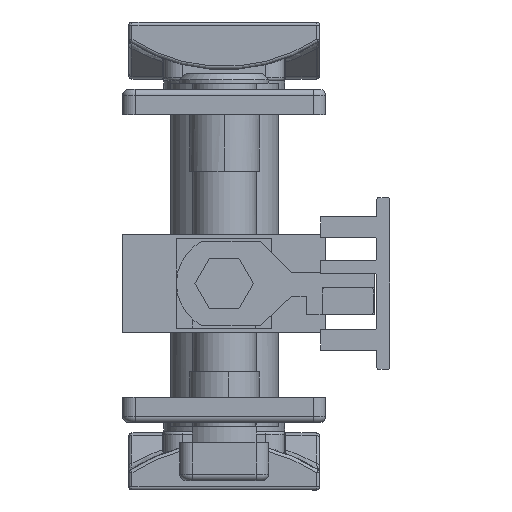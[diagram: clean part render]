
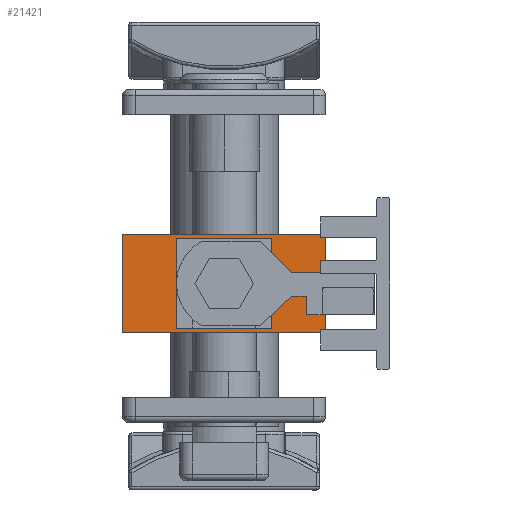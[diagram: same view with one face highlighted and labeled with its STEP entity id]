
A CAD part, front view. The second image highlights one B-rep face of the part: STEP entity #21421.
In plain terms, the highlighted planar face has unit normal (0, -1, 0).
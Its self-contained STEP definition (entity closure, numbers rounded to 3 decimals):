
#980 = CARTESIAN_POINT ( 'NONE',  ( 7., -199.25, 6.25 ) ) ;
#991 = CARTESIAN_POINT ( 'NONE',  ( 16., -199.25, 7.75 ) ) ;
#2183 = LINE ( 'NONE', #33292, #22759 ) ;
#3111 = ORIENTED_EDGE ( 'NONE', *, *, #17955, .F. ) ;
#4409 = LINE ( 'NONE', #22152, #5649 ) ;
#4440 = DIRECTION ( 'NONE',  ( 0., 0., -1. ) ) ;
#4994 = CARTESIAN_POINT ( 'NONE',  ( -16., -199.25, -7.75 ) ) ;
#5649 = VECTOR ( 'NONE', #17202, 1000. ) ;
#5663 = ORIENTED_EDGE ( 'NONE', *, *, #15079, .F. ) ;
#5887 = VECTOR ( 'NONE', #4440, 1000. ) ;
#6022 = CARTESIAN_POINT ( 'NONE',  ( -16., -199.25, 7.75 ) ) ;
#6766 = CARTESIAN_POINT ( 'NONE',  ( 7., -199.25, -6.25 ) ) ;
#6999 = CARTESIAN_POINT ( 'NONE',  ( -16., -199.25, 7.75 ) ) ;
#7089 = CARTESIAN_POINT ( 'NONE',  ( 7., -199.25, 6.25 ) ) ;
#7401 = CARTESIAN_POINT ( 'NONE',  ( 16., -199.25, 7.75 ) ) ;
#7677 = CARTESIAN_POINT ( 'NONE',  ( -16., -199.25, 7.75 ) ) ;
#7711 = VERTEX_POINT ( 'NONE', #18604 ) ;
#7983 = ORIENTED_EDGE ( 'NONE', *, *, #24250, .F. ) ;
#8460 = DIRECTION ( 'NONE',  ( 0., 0., 1. ) ) ;
#9065 = LINE ( 'NONE', #17393, #5887 ) ;
#9732 = FACE_OUTER_BOUND ( 'NONE', #33100, .T. ) ;
#10041 = VECTOR ( 'NONE', #24718, 1000. ) ;
#10250 = VERTEX_POINT ( 'NONE', #6766 ) ;
#11026 = ORIENTED_EDGE ( 'NONE', *, *, #21459, .F. ) ;
#11065 = EDGE_CURVE ( 'NONE', #27105, #21086, #9065, .T. ) ;
#11674 = DIRECTION ( 'NONE',  ( 1., 0., 0. ) ) ;
#11801 = CARTESIAN_POINT ( 'NONE',  ( 7., -199.25, 6.25 ) ) ;
#12812 = AXIS2_PLACEMENT_3D ( 'NONE', #6999, #14847, #27927 ) ;
#14655 = VECTOR ( 'NONE', #8460, 1000. ) ;
#14847 = DIRECTION ( 'NONE',  ( 0., 1., 0. ) ) ;
#15079 = EDGE_CURVE ( 'NONE', #27105, #31513, #25098, .T. ) ;
#17202 = DIRECTION ( 'NONE',  ( 0., 0., -1. ) ) ;
#17393 = CARTESIAN_POINT ( 'NONE',  ( -16., -199.25, 7.75 ) ) ;
#17547 = ORIENTED_EDGE ( 'NONE', *, *, #29614, .F. ) ;
#17569 = EDGE_CURVE ( 'NONE', #21086, #7711, #21184, .T. ) ;
#17955 = EDGE_CURVE ( 'NONE', #26983, #26164, #4409, .T. ) ;
#18001 = EDGE_LOOP ( 'NONE', ( #3111, #17547, #7983, #29047 ) ) ;
#18604 = CARTESIAN_POINT ( 'NONE',  ( 16., -199.25, -7.75 ) ) ;
#19149 = CARTESIAN_POINT ( 'NONE',  ( -7., -199.25, 6.25 ) ) ;
#19712 = VECTOR ( 'NONE', #11674, 1000. ) ;
#21086 = VERTEX_POINT ( 'NONE', #28131 ) ;
#21184 = LINE ( 'NONE', #4994, #28975 ) ;
#21421 = ADVANCED_FACE ( 'NONE', ( #30291, #9732 ), #22528, .F. ) ;
#21459 = EDGE_CURVE ( 'NONE', #31513, #7711, #24149, .T. ) ;
#21684 = LINE ( 'NONE', #11801, #10041 ) ;
#22152 = CARTESIAN_POINT ( 'NONE',  ( -7., -199.25, -6.25 ) ) ;
#22528 = PLANE ( 'NONE',  #12812 ) ;
#22759 = VECTOR ( 'NONE', #27715, 1000. ) ;
#23709 = VECTOR ( 'NONE', #32095, 1000. ) ;
#24135 = LINE ( 'NONE', #980, #14655 ) ;
#24149 = LINE ( 'NONE', #991, #23709 ) ;
#24250 = EDGE_CURVE ( 'NONE', #10250, #27965, #24135, .T. ) ;
#24718 = DIRECTION ( 'NONE',  ( -1., 0., 0. ) ) ;
#25098 = LINE ( 'NONE', #7677, #19712 ) ;
#26164 = VERTEX_POINT ( 'NONE', #32395 ) ;
#26631 = ORIENTED_EDGE ( 'NONE', *, *, #17569, .T. ) ;
#26983 = VERTEX_POINT ( 'NONE', #19149 ) ;
#27105 = VERTEX_POINT ( 'NONE', #6022 ) ;
#27715 = DIRECTION ( 'NONE',  ( 1., 0., 0. ) ) ;
#27927 = DIRECTION ( 'NONE',  ( 0., 0., 1. ) ) ;
#27965 = VERTEX_POINT ( 'NONE', #7089 ) ;
#28131 = CARTESIAN_POINT ( 'NONE',  ( -16., -199.25, -7.75 ) ) ;
#28812 = DIRECTION ( 'NONE',  ( 1., 0., 0. ) ) ;
#28975 = VECTOR ( 'NONE', #28812, 1000. ) ;
#29047 = ORIENTED_EDGE ( 'NONE', *, *, #32533, .F. ) ;
#29424 = ORIENTED_EDGE ( 'NONE', *, *, #11065, .T. ) ;
#29614 = EDGE_CURVE ( 'NONE', #27965, #26983, #21684, .T. ) ;
#30291 = FACE_BOUND ( 'NONE', #18001, .T. ) ;
#31513 = VERTEX_POINT ( 'NONE', #7401 ) ;
#32095 = DIRECTION ( 'NONE',  ( 0., 0., -1. ) ) ;
#32395 = CARTESIAN_POINT ( 'NONE',  ( -7., -199.25, -6.25 ) ) ;
#32533 = EDGE_CURVE ( 'NONE', #26164, #10250, #2183, .T. ) ;
#33100 = EDGE_LOOP ( 'NONE', ( #26631, #11026, #5663, #29424 ) ) ;
#33292 = CARTESIAN_POINT ( 'NONE',  ( -7., -199.25, -6.25 ) ) ;
